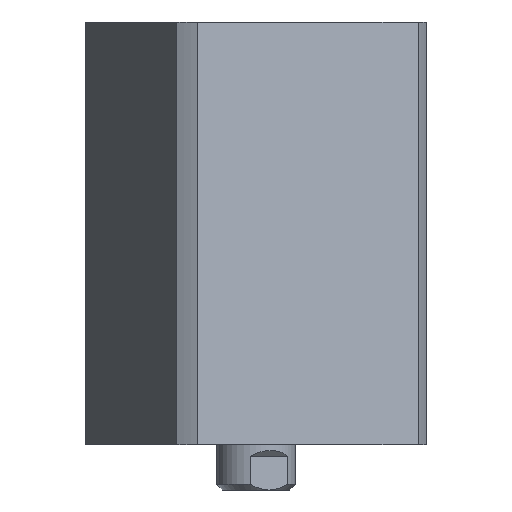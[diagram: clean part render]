
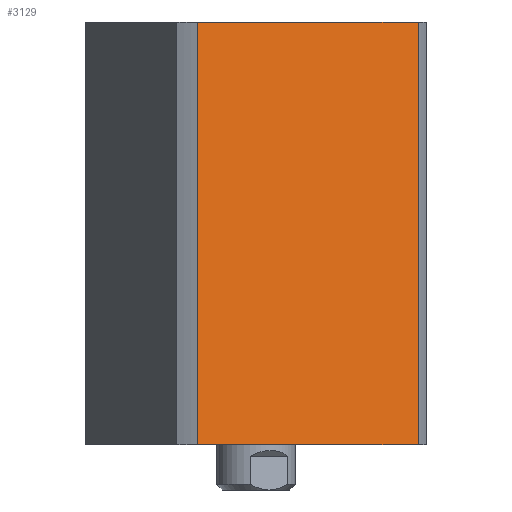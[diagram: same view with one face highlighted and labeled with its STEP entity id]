
A CAD part, left-side view. The second image highlights one B-rep face of the part: STEP entity #3129.
In plain terms, the highlighted planar face has unit normal (-0.924, -0.383, 0) as drawn and (1, 0, 0) by its records, which use the part's own axes.
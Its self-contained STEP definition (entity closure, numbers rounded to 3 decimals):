
#183 = EDGE_CURVE ( 'NONE', #2292, #4322, #7439, .T. ) ;
#474 = VECTOR ( 'NONE', #4441, 1000. ) ;
#544 = VERTEX_POINT ( 'NONE', #5231 ) ;
#820 = VECTOR ( 'NONE', #7626, 1000. ) ;
#875 = EDGE_CURVE ( 'NONE', #544, #2292, #1920, .T. ) ;
#959 = DIRECTION ( 'NONE',  ( 0., 1., 0. ) ) ;
#1140 = ORIENTED_EDGE ( 'NONE', *, *, #3256, .F. ) ;
#1294 = DIRECTION ( 'NONE',  ( 0., 0., 1. ) ) ;
#1920 = LINE ( 'NONE', #2834, #3194 ) ;
#2127 = LINE ( 'NONE', #5031, #474 ) ;
#2251 = LINE ( 'NONE', #3826, #5384 ) ;
#2292 = VERTEX_POINT ( 'NONE', #3083 ) ;
#2450 = FACE_OUTER_BOUND ( 'NONE', #7515, .T. ) ;
#2580 = ORIENTED_EDGE ( 'NONE', *, *, #183, .F. ) ;
#2731 = CARTESIAN_POINT ( 'NONE',  ( 24., 21.166, 0. ) ) ;
#2745 = ORIENTED_EDGE ( 'NONE', *, *, #8020, .T. ) ;
#2834 = CARTESIAN_POINT ( 'NONE',  ( 24., 24., 75. ) ) ;
#3083 = CARTESIAN_POINT ( 'NONE',  ( 24., 21.166, 75. ) ) ;
#3129 = ADVANCED_FACE ( 'NONE', ( #2450 ), #3132, .F. ) ;
#3132 = PLANE ( 'NONE',  #6078 ) ;
#3194 = VECTOR ( 'NONE', #959, 1000. ) ;
#3256 = EDGE_CURVE ( 'NONE', #4807, #544, #2251, .T. ) ;
#3774 = DIRECTION ( 'NONE',  ( 0., -1., 0. ) ) ;
#3809 = CARTESIAN_POINT ( 'NONE',  ( 24., -21.166, 0. ) ) ;
#3826 = CARTESIAN_POINT ( 'NONE',  ( 24., -21.166, -225. ) ) ;
#3910 = CARTESIAN_POINT ( 'NONE',  ( 24., 21.166, -225. ) ) ;
#4322 = VERTEX_POINT ( 'NONE', #2731 ) ;
#4441 = DIRECTION ( 'NONE',  ( 0., 1., 0. ) ) ;
#4732 = ORIENTED_EDGE ( 'NONE', *, *, #875, .F. ) ;
#4807 = VERTEX_POINT ( 'NONE', #3809 ) ;
#4994 = CARTESIAN_POINT ( 'NONE',  ( 24., 24., 75. ) ) ;
#5031 = CARTESIAN_POINT ( 'NONE',  ( 24., 24., 0. ) ) ;
#5231 = CARTESIAN_POINT ( 'NONE',  ( 24., -21.166, 75. ) ) ;
#5384 = VECTOR ( 'NONE', #1294, 1000. ) ;
#6078 = AXIS2_PLACEMENT_3D ( 'NONE', #4994, #7485, #3774 ) ;
#7439 = LINE ( 'NONE', #3910, #820 ) ;
#7485 = DIRECTION ( 'NONE',  ( -1., 0., 0. ) ) ;
#7515 = EDGE_LOOP ( 'NONE', ( #1140, #2745, #2580, #4732 ) ) ;
#7626 = DIRECTION ( 'NONE',  ( 0., 0., -1. ) ) ;
#8020 = EDGE_CURVE ( 'NONE', #4807, #4322, #2127, .T. ) ;
